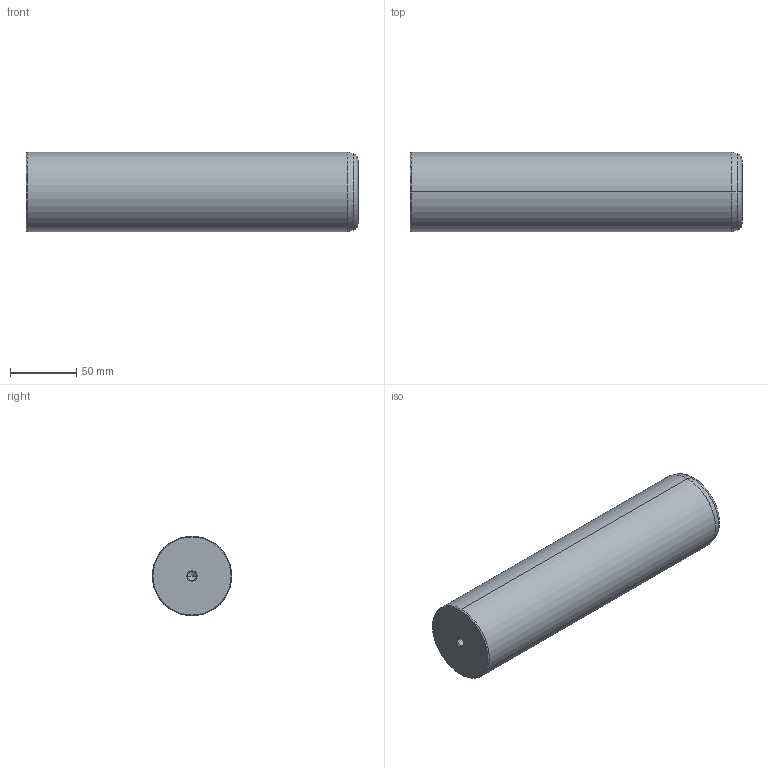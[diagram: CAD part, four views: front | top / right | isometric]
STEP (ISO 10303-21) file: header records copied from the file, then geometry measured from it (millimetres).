
FILE_DESCRIPTION(('CATIA V5 STEP Exchange'),'2;1');
FILE_NAME('C:\Users\Utente\Desktop\IO LAVORO\3D X SITO CF\X SITO\720\720-60x250.stp','2020-12-30T21:35:43+00:00',('none'),('none'),'CATIA Version 5 Release 20 GA (IN-10)','CATIA V5 STEP AP203','none');
FILE_SCHEMA(('CONFIG_CONTROL_DESIGN'));
Length unit declared in the file: millimetre
Products named in the file (1): 720-60x250
Bounding box: 250 x 60 x 60 mm (x, y, z)
Volume: 703023.4 mm3; surface area: 53099 mm2
Topology: 1 solids, 1 shells, 22 faces, 56 edges, 34 vertices
Faces by surface type: cone 12, cylinder 6, plane 2, torus 2
Entity records: 755 total; most frequent: CARTESIAN_POINT 216, ORIENTED_EDGE 104, DIRECTION 89, EDGE_CURVE 52, AXIS2_PLACEMENT_3D 50, VERTEX_POINT 34, CIRCLE 27, EDGE_LOOP 24
